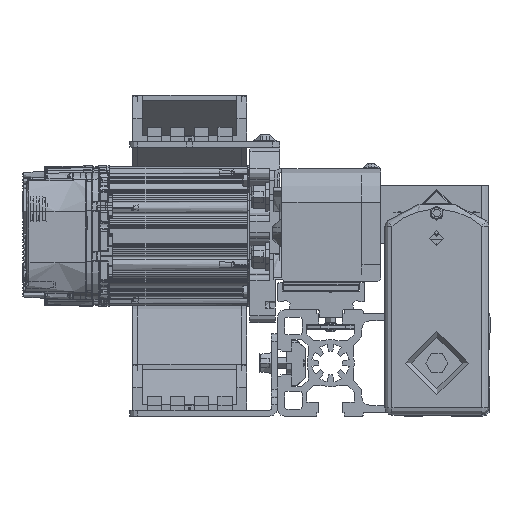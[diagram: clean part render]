
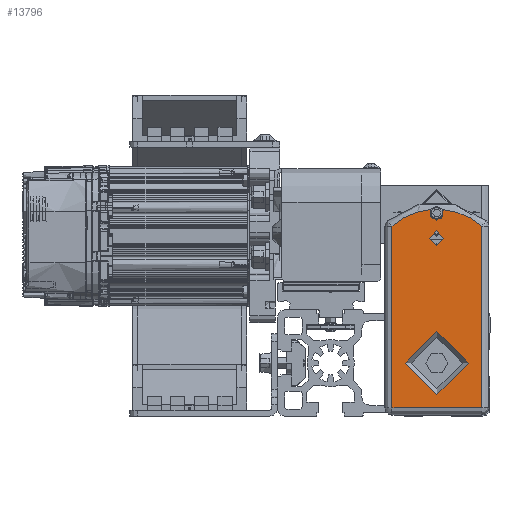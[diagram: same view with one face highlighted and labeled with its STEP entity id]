
A CAD part, front view. The second image highlights one B-rep face of the part: STEP entity #13796.
In plain terms, the highlighted planar face has unit normal (0, -1, 0).
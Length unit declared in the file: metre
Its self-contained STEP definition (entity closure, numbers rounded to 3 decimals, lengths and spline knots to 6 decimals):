
#13796 = ADVANCED_FACE( '', ( #30487, #30488, #30489 ), #30490, .T. );
#30487 = FACE_OUTER_BOUND( '', #75532, .T. );
#30488 = FACE_BOUND( '', #75533, .T. );
#30489 = FACE_BOUND( '', #75534, .T. );
#30490 = PLANE( '', #75535 );
#75532 = EDGE_LOOP( '', ( #146140, #146141, #146142, #146143, #146144, #146145 ) );
#75533 = EDGE_LOOP( '', ( #146146 ) );
#75534 = EDGE_LOOP( '', ( #146147 ) );
#75535 = AXIS2_PLACEMENT_3D( '', #146148, #146149, #146150 );
#146140 = ORIENTED_EDGE( '', *, *, #186987, .T. );
#146141 = ORIENTED_EDGE( '', *, *, #183604, .T. );
#146142 = ORIENTED_EDGE( '', *, *, #186990, .T. );
#146143 = ORIENTED_EDGE( '', *, *, #190303, .T. );
#146144 = ORIENTED_EDGE( '', *, *, #181414, .T. );
#146145 = ORIENTED_EDGE( '', *, *, #180916, .T. );
#146146 = ORIENTED_EDGE( '', *, *, #190304, .T. );
#146147 = ORIENTED_EDGE( '', *, *, #188053, .F. );
#146148 = CARTESIAN_POINT( '', ( -0.04064, -0.004762, -0.022 ) );
#146149 = DIRECTION( '', ( 0., -1., 0. ) );
#146150 = DIRECTION( '', ( 0., 0., -1. ) );
#180916 = EDGE_CURVE( '', #204560, #204565, #204567, .T. );
#181414 = EDGE_CURVE( '', #205435, #204560, #205441, .T. );
#183604 = EDGE_CURVE( '', #209266, #209267, #209269, .T. );
#186987 = EDGE_CURVE( '', #204565, #209266, #214646, .T. );
#186990 = EDGE_CURVE( '', #209267, #214648, #214650, .T. );
#188053 = EDGE_CURVE( '', #216253, #216253, #216254, .T. );
#190303 = EDGE_CURVE( '', #214648, #205435, #219531, .T. );
#190304 = EDGE_CURVE( '', #219532, #219532, #219533, .T. );
#204560 = VERTEX_POINT( '', #242223 );
#204565 = VERTEX_POINT( '', #242229 );
#204567 = LINE( '', #242231, #242232 );
#205435 = VERTEX_POINT( '', #244300 );
#205441 = LINE( '', #244307, #244308 );
#209266 = VERTEX_POINT( '', #253141 );
#209267 = VERTEX_POINT( '', #253142 );
#209269 = CIRCLE( '', #253165, 0.003 );
#214646 = CIRCLE( '', #269637, 0.02875 );
#214648 = VERTEX_POINT( '', #269639 );
#214650 = CIRCLE( '', #269641, 0.02875 );
#216253 = VERTEX_POINT( '', #274751 );
#216254 = CIRCLE( '', #274752, 0.01344 );
#219531 = LINE( '', #282885, #282886 );
#219532 = VERTEX_POINT( '', #282887 );
#219533 = CIRCLE( '', #282888, 0.003 );
#242223 = CARTESIAN_POINT( '', ( 0.03764, -0.004763, 0.019 ) );
#242229 = CARTESIAN_POINT( '', ( -0.039324, -0.004763, 0.019 ) );
#242231 = CARTESIAN_POINT( '', ( -0.039324, -0.004763, 0.019 ) );
#242232 = VECTOR( '', #317991, 1. );
#244300 = CARTESIAN_POINT( '', ( 0.03764, -0.004763, -0.019 ) );
#244307 = CARTESIAN_POINT( '', ( 0.03764, -0.004763, 0.019 ) );
#244308 = VECTOR( '', #318661, 1. );
#253141 = CARTESIAN_POINT( '', ( -0.046381, -0.004763, 0.002586 ) );
#253142 = CARTESIAN_POINT( '', ( -0.046381, -0.004763, -0.002586 ) );
#253165 = AXIS2_PLACEMENT_3D( '', #321826, #321827, #321828 );
#269637 = AXIS2_PLACEMENT_3D( '', #325936, #325937, #325938 );
#269639 = CARTESIAN_POINT( '', ( -0.039324, -0.004763, -0.019 ) );
#269641 = AXIS2_PLACEMENT_3D( '', #325945, #325946, #325947 );
#274751 = CARTESIAN_POINT( '', ( 0.03208, -0.004763, 0. ) );
#274752 = AXIS2_PLACEMENT_3D( '', #327201, #327202, #327203 );
#282885 = CARTESIAN_POINT( '', ( 0.03764, -0.004763, -0.019 ) );
#282886 = VECTOR( '', #329952, 1. );
#282887 = CARTESIAN_POINT( '', ( -0.03729, -0.004762, 0. ) );
#282888 = AXIS2_PLACEMENT_3D( '', #329953, #329954, #329955 );
#317991 = DIRECTION( '', ( -1., 0., 0. ) );
#318661 = DIRECTION( '', ( 0., 0., 1. ) );
#321826 = CARTESIAN_POINT( '', ( -0.04486, -0.004763, 0. ) );
#321827 = DIRECTION( '', ( 0., 1., 0. ) );
#321828 = DIRECTION( '', ( -1., 0., 0. ) );
#325936 = CARTESIAN_POINT( '', ( -0.017748, -0.004762, 0. ) );
#325937 = DIRECTION( '', ( 0., -1., 0. ) );
#325938 = DIRECTION( '', ( 1., 0., 0. ) );
#325945 = CARTESIAN_POINT( '', ( -0.017748, -0.004762, 0. ) );
#325946 = DIRECTION( '', ( 0., -1., 0. ) );
#325947 = DIRECTION( '', ( 1., 0., 0. ) );
#327201 = CARTESIAN_POINT( '', ( 0.01864, -0.004763, 0. ) );
#327202 = DIRECTION( '', ( 0., -1., 0. ) );
#327203 = DIRECTION( '', ( 1., 0., 0. ) );
#329952 = DIRECTION( '', ( 1., 0., 0. ) );
#329953 = CARTESIAN_POINT( '', ( -0.03429, -0.004762, 0. ) );
#329954 = DIRECTION( '', ( 0., 1., 0. ) );
#329955 = DIRECTION( '', ( -1., 0., 0. ) );
